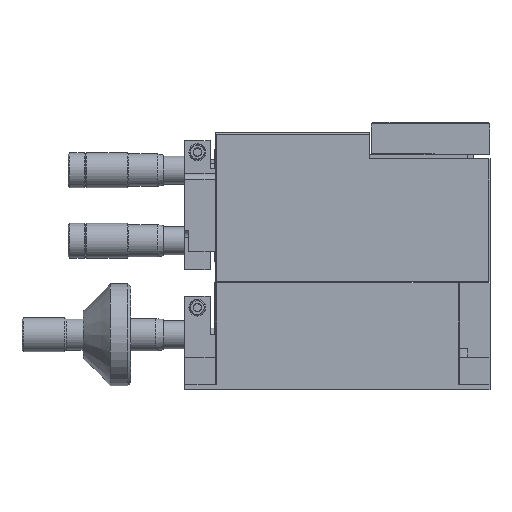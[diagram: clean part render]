
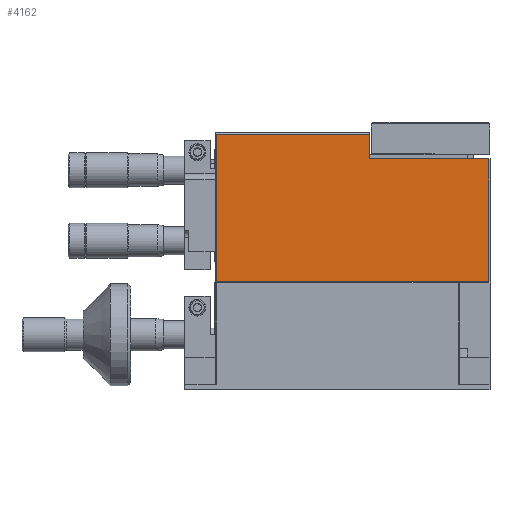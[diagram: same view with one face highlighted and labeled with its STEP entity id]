
A CAD part, top view. The second image highlights one B-rep face of the part: STEP entity #4162.
In plain terms, the highlighted planar face has unit normal (0, 0, 1).
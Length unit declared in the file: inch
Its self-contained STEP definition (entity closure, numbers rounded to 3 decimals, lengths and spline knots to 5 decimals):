
#2432=EDGE_CURVE('P3A-L-MM-HN-I[2]',#6639,#6665,#6666,.T.);
#3488=EDGE_CURVE('P3A-L-MM-HN-I[2]',#5830,#6711,#8142,.T.);
#3527=EDGE_CURVE('P3A-L-MM-HN-I[2]',#7271,#8194,#8195,.T.);
#3802=EDGE_CURVE('P3A-L-MM-HN-I[2]',#7271,#6711,#8557,.F.);
#4144=EDGE_CURVE('P3A-L-MM-HN-I[2]',#6639,#5830,#9023,.F.);
#4162=ADVANCED_FACE('P3A-L-MM-HN-I[2]',(#9046),#9047,.T.);
#4863=EDGE_CURVE('P3A-L-MM-HN-I[2]',#6665,#8194,#9917,.F.);
#5830=VERTEX_POINT('',#11222);
#6639=VERTEX_POINT('',#12402);
#6665=VERTEX_POINT('',#12439);
#6666=LINE('',#12440,#12441);
#6711=VERTEX_POINT('',#12503);
#7271=VERTEX_POINT('',#13395);
#8142=LINE('',#14751,#14752);
#8194=VERTEX_POINT('',#14828);
#8195=LINE('',#14829,#14830);
#8557=LINE('',#15467,#15468);
#9023=LINE('',#16170,#16171);
#9046=FACE_OUTER_BOUND('',#16203,.T.);
#9047=PLANE('',#16204);
#9917=LINE('',#17586,#17587);
#11222=CARTESIAN_POINT('',(-2.77,-1.93,0.875));
#12402=CARTESIAN_POINT('',(-2.77,-2.29,0.875));
#12439=CARTESIAN_POINT('',(-1.02,-2.29,0.875));
#12440=CARTESIAN_POINT('',(-2.07125,-2.29,0.875));
#12441=VECTOR('',#19870,1.0);
#12503=CARTESIAN_POINT('',(-5.03,-1.93,0.875));
#13395=CARTESIAN_POINT('',(-5.03,-4.1,0.875));
#14751=CARTESIAN_POINT('',(-3.64375,-1.93,0.875));
#14752=VECTOR('',#21501,1.0);
#14828=CARTESIAN_POINT('',(-1.02,-4.1,0.875));
#14829=CARTESIAN_POINT('',(-3.025,-4.1,0.875));
#14830=VECTOR('',#21569,1.0);
#15467=CARTESIAN_POINT('',(-5.03,-2.36616,0.875));
#15468=VECTOR('',#21960,1.0);
#16170=CARTESIAN_POINT('',(-2.77,-3.0075,0.875));
#16171=VECTOR('',#22556,1.0);
#16203=EDGE_LOOP('',(#22583,#22584,#22585,#22586,#22587,#22588));
#16204=AXIS2_PLACEMENT_3D('',#22589,#22590,#22591);
#17586=CARTESIAN_POINT('',(-1.02,-3.2425,0.875));
#17587=VECTOR('',#23652,1.0);
#19870=DIRECTION('',(1.0,0.0,0.0));
#21501=DIRECTION('',(-1.0,0.0,0.0));
#21569=DIRECTION('',(1.0,0.0,0.0));
#21960=DIRECTION('',(0.0,-1.0,0.0));
#22556=DIRECTION('',(0.0,-1.0,0.0));
#22583=ORIENTED_EDGE('',*,*,#3488,.T.);
#22584=ORIENTED_EDGE('',*,*,#3802,.F.);
#22585=ORIENTED_EDGE('',*,*,#3527,.T.);
#22586=ORIENTED_EDGE('',*,*,#4863,.F.);
#22587=ORIENTED_EDGE('',*,*,#2432,.F.);
#22588=ORIENTED_EDGE('',*,*,#4144,.T.);
#22589=CARTESIAN_POINT('',(-3.025,-3.0,0.875));
#22590=DIRECTION('',(0.0,0.0,1.0));
#22591=DIRECTION('',(0.0,-1.0,0.0));
#23652=DIRECTION('',(0.0,1.0,0.0));
